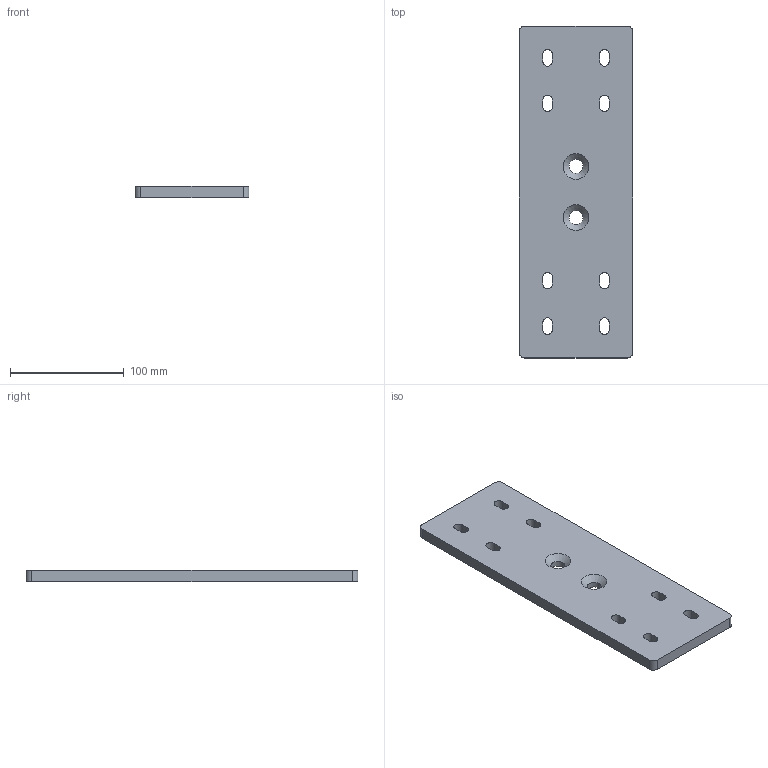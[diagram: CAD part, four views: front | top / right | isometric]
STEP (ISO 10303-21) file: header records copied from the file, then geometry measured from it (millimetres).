
FILE_DESCRIPTION(/* description */ (''),/* implementation_level */ '2;1');
FILE_NAME(/* name */ 'TRAYLOADER.68.v2.stp',/* time_stamp */ '2025-05-12T17:08:52+02:00',/* author */ (''),/* organization */ (''),/* preprocessor_version */ 'ST-DEVELOPER v19.4',/* originating_system */ 'SIEMENS PLM Software NX2306.5001',/* authorisation */ '');
FILE_SCHEMA (('AP203_CONFIGURATION_CONTROLLED_3D_DESIGN_OF_MECHANICAL_PARTS_AND_ASSEMBLIES_MIM_LF { 1 0 10303 403 2 1 2}'));
Length unit declared in the file: millimetre
Products named in the file (1): TRAYLOADER.68.v2_objects
Bounding box: 100 x 292 x 10 mm (x, y, z)
Volume: 279467.9 mm3; surface area: 67613.2 mm2
Topology: 1 solids, 1 shells, 46 faces, 132 edges, 88 vertices
Faces by surface type: plane 22, cylinder 22, cone 2
Full cylindrical faces by diameter (mm): 12.5 x2
Entity records: 1610 total; most frequent: DIRECTION 266, CARTESIAN_POINT 259, ORIENTED_EDGE 252, EDGE_CURVE 126, AXIS2_PLACEMENT_3D 93, VERTEX_POINT 86, LINE 80, VECTOR 80
